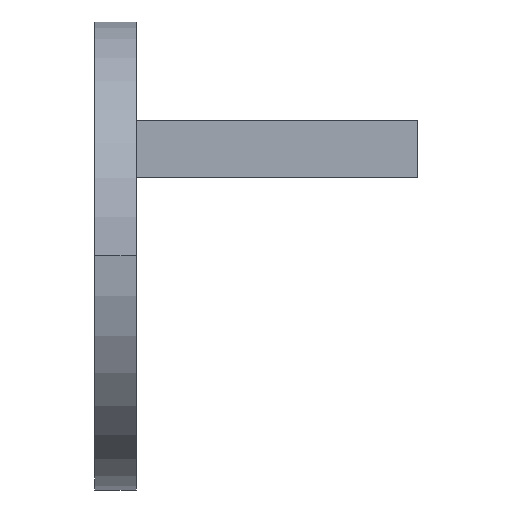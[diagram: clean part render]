
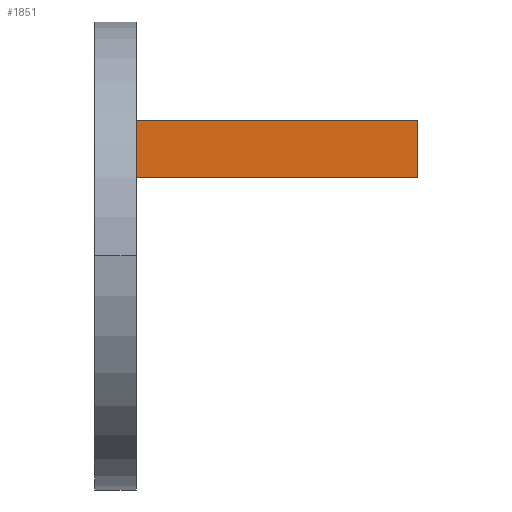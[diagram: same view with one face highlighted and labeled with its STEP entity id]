
A CAD part, left-side view. The second image highlights one B-rep face of the part: STEP entity #1851.
In plain terms, the highlighted planar face has unit normal (-1, 0, 0).
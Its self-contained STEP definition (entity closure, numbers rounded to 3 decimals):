
#38 = DIRECTION ( 'NONE',  ( 0., 1., 0. ) ) ;
#64 = VERTEX_POINT ( 'NONE', #649 ) ;
#89 = EDGE_CURVE ( 'NONE', #64, #255, #1110, .T. ) ;
#255 = VERTEX_POINT ( 'NONE', #1397 ) ;
#328 = DIRECTION ( 'NONE',  ( 0., 0., -1. ) ) ;
#334 = LINE ( 'NONE', #467, #1983 ) ;
#360 = FACE_OUTER_BOUND ( 'NONE', #1485, .T. ) ;
#361 = EDGE_CURVE ( 'NONE', #1030, #64, #1874, .T. ) ;
#397 = CARTESIAN_POINT ( 'NONE',  ( -32.549, -40.007, 0. ) ) ;
#414 = CARTESIAN_POINT ( 'NONE',  ( -32.549, -40.007, 7. ) ) ;
#445 = AXIS2_PLACEMENT_3D ( 'NONE', #1736, #1573, #1776 ) ;
#467 = CARTESIAN_POINT ( 'NONE',  ( -32.549, 0., 0. ) ) ;
#483 = DIRECTION ( 'NONE',  ( 0., 1., 0. ) ) ;
#577 = ORIENTED_EDGE ( 'NONE', *, *, #361, .T. ) ;
#649 = CARTESIAN_POINT ( 'NONE',  ( -32.549, -5.807, 7. ) ) ;
#744 = ORIENTED_EDGE ( 'NONE', *, *, #1683, .F. ) ;
#766 = EDGE_CURVE ( 'NONE', #1230, #255, #334, .T. ) ;
#783 = CARTESIAN_POINT ( 'NONE',  ( -32.549, -40.007, 7. ) ) ;
#814 = DIRECTION ( 'NONE',  ( 0., 0., -1. ) ) ;
#859 = ORIENTED_EDGE ( 'NONE', *, *, #89, .T. ) ;
#990 = PLANE ( 'NONE',  #445 ) ;
#1030 = VERTEX_POINT ( 'NONE', #414 ) ;
#1110 = LINE ( 'NONE', #1760, #1951 ) ;
#1204 = VECTOR ( 'NONE', #483, 1000. ) ;
#1230 = VERTEX_POINT ( 'NONE', #397 ) ;
#1283 = VECTOR ( 'NONE', #328, 1000. ) ;
#1355 = ORIENTED_EDGE ( 'NONE', *, *, #766, .F. ) ;
#1397 = CARTESIAN_POINT ( 'NONE',  ( -32.549, -5.807, 0. ) ) ;
#1485 = EDGE_LOOP ( 'NONE', ( #577, #859, #1355, #744 ) ) ;
#1573 = DIRECTION ( 'NONE',  ( -1., 0., 0. ) ) ;
#1678 = CARTESIAN_POINT ( 'NONE',  ( -32.549, 0., 7. ) ) ;
#1683 = EDGE_CURVE ( 'NONE', #1030, #1230, #1888, .T. ) ;
#1736 = CARTESIAN_POINT ( 'NONE',  ( -32.549, 0., 7. ) ) ;
#1760 = CARTESIAN_POINT ( 'NONE',  ( -32.549, -5.807, 7. ) ) ;
#1776 = DIRECTION ( 'NONE',  ( 0., 0., 1. ) ) ;
#1851 = ADVANCED_FACE ( 'NONE', ( #360 ), #990, .T. ) ;
#1874 = LINE ( 'NONE', #1678, #1204 ) ;
#1888 = LINE ( 'NONE', #783, #1283 ) ;
#1951 = VECTOR ( 'NONE', #814, 1000. ) ;
#1983 = VECTOR ( 'NONE', #38, 1000. ) ;
